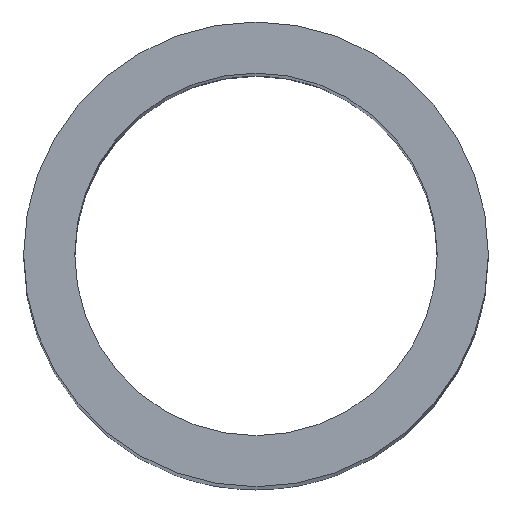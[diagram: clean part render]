
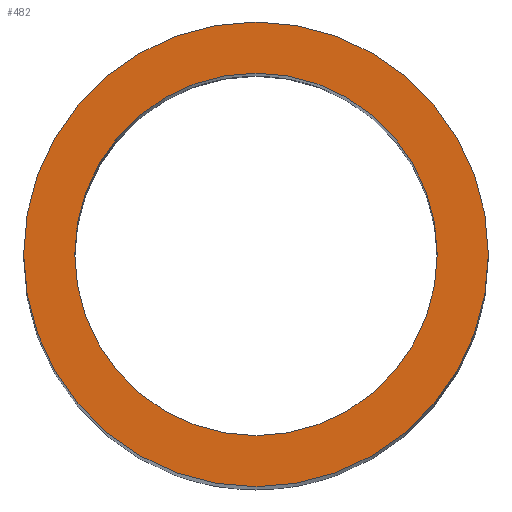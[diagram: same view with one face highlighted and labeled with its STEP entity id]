
A CAD part, top view. The second image highlights one B-rep face of the part: STEP entity #482.
In plain terms, the highlighted planar face has unit normal (0, 0, 1).
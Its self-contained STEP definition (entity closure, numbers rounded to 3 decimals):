
#9 = AXIS2_PLACEMENT_3D ( 'NONE', #573, #334, #285 ) ;
#24 = DIRECTION ( 'NONE',  ( 1., 0., 0. ) ) ;
#59 = CIRCLE ( 'NONE', #485, 9.75 ) ;
#69 = VERTEX_POINT ( 'NONE', #463 ) ;
#75 = CIRCLE ( 'NONE', #434, 12.5 ) ;
#77 = EDGE_CURVE ( 'NONE', #69, #215, #83, .T. ) ;
#81 = CARTESIAN_POINT ( 'NONE',  ( 0., 0., 100. ) ) ;
#83 = CIRCLE ( 'NONE', #449, 9.75 ) ;
#119 = CARTESIAN_POINT ( 'NONE',  ( 0., 0., 100. ) ) ;
#141 = DIRECTION ( 'NONE',  ( 1., 0., 0. ) ) ;
#151 = ORIENTED_EDGE ( 'NONE', *, *, #383, .T. ) ;
#175 = CARTESIAN_POINT ( 'NONE',  ( 0., 0., 100. ) ) ;
#192 = CARTESIAN_POINT ( 'NONE',  ( -9.75, 0., 100. ) ) ;
#194 = DIRECTION ( 'NONE',  ( 1., 0., 0. ) ) ;
#209 = DIRECTION ( 'NONE',  ( 0., 0., 1. ) ) ;
#212 = FACE_BOUND ( 'NONE', #454, .T. ) ;
#215 = VERTEX_POINT ( 'NONE', #192 ) ;
#227 = PLANE ( 'NONE',  #232 ) ;
#232 = AXIS2_PLACEMENT_3D ( 'NONE', #175, #374, #272 ) ;
#256 = CARTESIAN_POINT ( 'NONE',  ( -12.5, 0., 100. ) ) ;
#272 = DIRECTION ( 'NONE',  ( 1., 0., 0. ) ) ;
#285 = DIRECTION ( 'NONE',  ( 1., 0., 0. ) ) ;
#288 = VERTEX_POINT ( 'NONE', #256 ) ;
#309 = FACE_OUTER_BOUND ( 'NONE', #515, .T. ) ;
#326 = ORIENTED_EDGE ( 'NONE', *, *, #351, .T. ) ;
#334 = DIRECTION ( 'NONE',  ( 0., 0., 1. ) ) ;
#342 = CIRCLE ( 'NONE', #9, 12.5 ) ;
#351 = EDGE_CURVE ( 'NONE', #409, #288, #75, .T. ) ;
#374 = DIRECTION ( 'NONE',  ( 0., 0., 1. ) ) ;
#383 = EDGE_CURVE ( 'NONE', #288, #409, #342, .T. ) ;
#403 = ORIENTED_EDGE ( 'NONE', *, *, #407, .F. ) ;
#407 = EDGE_CURVE ( 'NONE', #215, #69, #59, .T. ) ;
#409 = VERTEX_POINT ( 'NONE', #623 ) ;
#434 = AXIS2_PLACEMENT_3D ( 'NONE', #119, #209, #194 ) ;
#449 = AXIS2_PLACEMENT_3D ( 'NONE', #81, #557, #24 ) ;
#454 = EDGE_LOOP ( 'NONE', ( #569, #403 ) ) ;
#463 = CARTESIAN_POINT ( 'NONE',  ( 9.75, 0., 100. ) ) ;
#482 = ADVANCED_FACE ( 'NONE', ( #212, #309 ), #227, .T. ) ;
#485 = AXIS2_PLACEMENT_3D ( 'NONE', #527, #615, #141 ) ;
#515 = EDGE_LOOP ( 'NONE', ( #151, #326 ) ) ;
#527 = CARTESIAN_POINT ( 'NONE',  ( 0., 0., 100. ) ) ;
#557 = DIRECTION ( 'NONE',  ( 0., 0., 1. ) ) ;
#569 = ORIENTED_EDGE ( 'NONE', *, *, #77, .F. ) ;
#573 = CARTESIAN_POINT ( 'NONE',  ( 0., 0., 100. ) ) ;
#615 = DIRECTION ( 'NONE',  ( 0., 0., 1. ) ) ;
#623 = CARTESIAN_POINT ( 'NONE',  ( 12.5, 0., 100. ) ) ;
